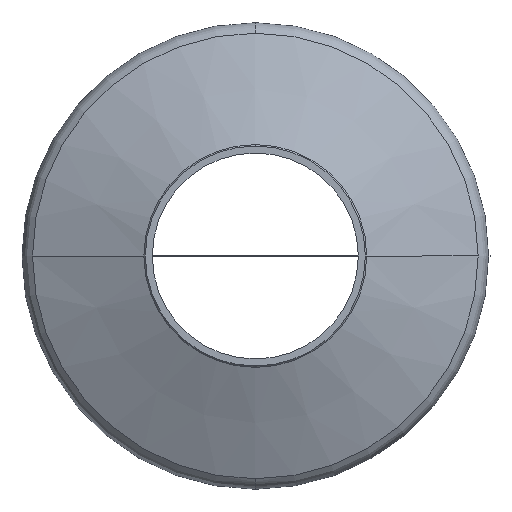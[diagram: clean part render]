
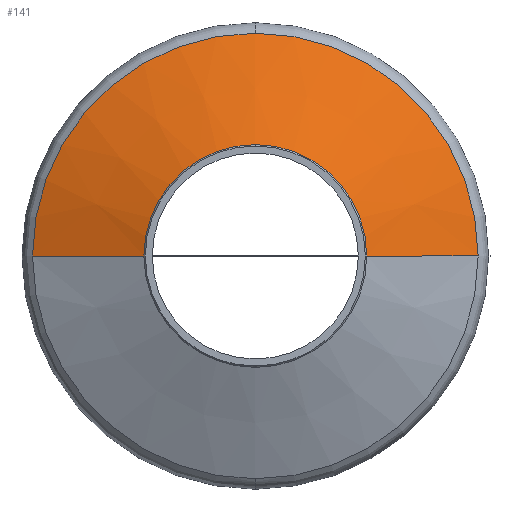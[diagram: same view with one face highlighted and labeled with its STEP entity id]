
A CAD part, left-side view. The second image highlights one B-rep face of the part: STEP entity #141.
In plain terms, the highlighted conical face has half-angle 67.164 degrees and reference radius 119.25 mm.
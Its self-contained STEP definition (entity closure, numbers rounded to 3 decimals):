
#141=ADVANCED_FACE('',(#377),#378,.T.);
#377=FACE_OUTER_BOUND('',#743,.T.);
#378=CONICAL_SURFACE('',#744,119.25,1.172);
#743=EDGE_LOOP('',(#1135,#1136,#1137,#1138,#1139,#1140));
#744=AXIS2_PLACEMENT_3D('',#1141,#1142,#1143);
#1135=ORIENTED_EDGE('',*,*,#2142,.F.);
#1136=ORIENTED_EDGE('',*,*,#2143,.T.);
#1137=ORIENTED_EDGE('',*,*,#2144,.T.);
#1138=ORIENTED_EDGE('',*,*,#2145,.F.);
#1139=ORIENTED_EDGE('',*,*,#2146,.F.);
#1140=ORIENTED_EDGE('',*,*,#2138,.F.);
#1141=CARTESIAN_POINT('',(-64.529,0.0,0.0));
#1142=DIRECTION('',(1.0,-0.0,-0.0));
#1143=DIRECTION('',(0.0,1.0,0.0));
#2138=EDGE_CURVE('',#2563,#2565,#2566,.T.);
#2142=EDGE_CURVE('',#2570,#2563,#2571,.T.);
#2143=EDGE_CURVE('',#2570,#2572,#2573,.T.);
#2144=EDGE_CURVE('',#2572,#2574,#2575,.T.);
#2145=EDGE_CURVE('',#2576,#2574,#2577,.T.);
#2146=EDGE_CURVE('',#2565,#2576,#2578,.T.);
#2563=VERTEX_POINT('',#3241);
#2565=VERTEX_POINT('',#3243);
#2566=CIRCLE('',#3244,159.0);
#2570=VERTEX_POINT('',#3248);
#2571=LINE('',#3249,#3250);
#2572=VERTEX_POINT('',#3251);
#2573=CIRCLE('',#3252,79.5);
#2574=VERTEX_POINT('',#3253);
#2575=CIRCLE('',#3254,79.5);
#2576=VERTEX_POINT('',#3255);
#2577=LINE('',#3256,#3257);
#2578=CIRCLE('',#3258,159.0);
#3241=CARTESIAN_POINT('',(-47.79,159.0,0.0));
#3243=CARTESIAN_POINT('',(-47.79,0.,159.0));
#3244=AXIS2_PLACEMENT_3D('',#4373,#4374,#4375);
#3248=CARTESIAN_POINT('',(-81.268,79.5,0.0));
#3249=CARTESIAN_POINT('',(-64.529,119.25,0.));
#3250=VECTOR('',#4382,1.0);
#3251=CARTESIAN_POINT('',(-81.268,0.,79.5));
#3252=AXIS2_PLACEMENT_3D('',#4383,#4384,#4385);
#3253=CARTESIAN_POINT('',(-81.268,-79.5,0.));
#3254=AXIS2_PLACEMENT_3D('',#4386,#4387,#4388);
#3255=CARTESIAN_POINT('',(-47.79,-159.0,0.));
#3256=CARTESIAN_POINT('',(-64.529,-119.25,0.));
#3257=VECTOR('',#4389,1.0);
#3258=AXIS2_PLACEMENT_3D('',#4390,#4391,#4392);
#4373=CARTESIAN_POINT('',(-47.79,0.0,0.0));
#4374=DIRECTION('',(1.0,0.0,0.0));
#4375=DIRECTION('',(0.0,1.0,0.0));
#4382=DIRECTION('',(0.388,0.922,0.));
#4383=CARTESIAN_POINT('',(-81.268,0.0,0.0));
#4384=DIRECTION('',(1.0,0.0,0.0));
#4385=DIRECTION('',(0.0,1.0,0.0));
#4386=CARTESIAN_POINT('',(-81.268,0.0,0.0));
#4387=DIRECTION('',(1.0,0.0,0.0));
#4388=DIRECTION('',(0.0,1.0,0.0));
#4389=DIRECTION('',(-0.388,0.922,0.));
#4390=CARTESIAN_POINT('',(-47.79,0.0,0.0));
#4391=DIRECTION('',(1.0,0.0,0.0));
#4392=DIRECTION('',(0.0,1.0,0.0));
